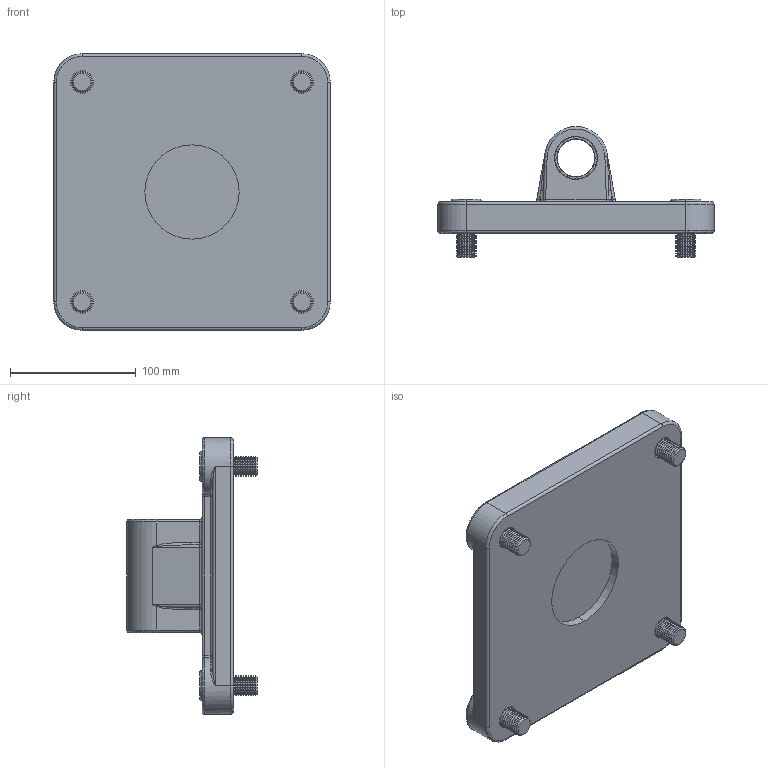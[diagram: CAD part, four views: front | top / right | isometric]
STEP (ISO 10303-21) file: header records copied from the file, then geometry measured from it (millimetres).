
FILE_DESCRIPTION (( 'STEP AP214' ), '1' );
FILE_NAME ('26036_2n.STEP', '2017-02-22T09:11:08', ( '' ), ( '' ), 'SwSTEP 2.0', 'SolidWorks 2016', '' );
FILE_SCHEMA (( 'AUTOMOTIVE_DESIGN' ));
Length unit declared in the file: millimetre
Products named in the file (1): 26036_2n
Bounding box: 220 x 104 x 220 mm (x, y, z)
Volume: 1312146.2 mm3; surface area: 178061.5 mm2
Topology: 7 solids, 7 shells, 562 faces, 1378 edges, 824 vertices
Faces by surface type: cone 224, cylinder 185, plane 91, bspline 46, torus 16
Entity records: 24722 total; most frequent: CARTESIAN_POINT 5023, DIRECTION 3080, ORIENTED_EDGE 2716, EDGE_CURVE 1358, AXIS2_PLACEMENT_3D 1263, VERTEX_POINT 824, CIRCLE 746, EDGE_LOOP 590
